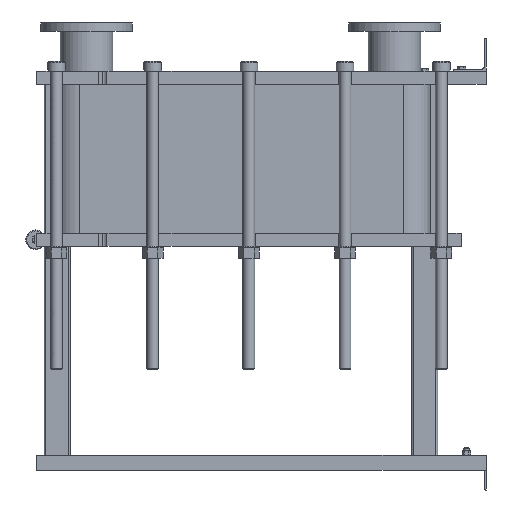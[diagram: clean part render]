
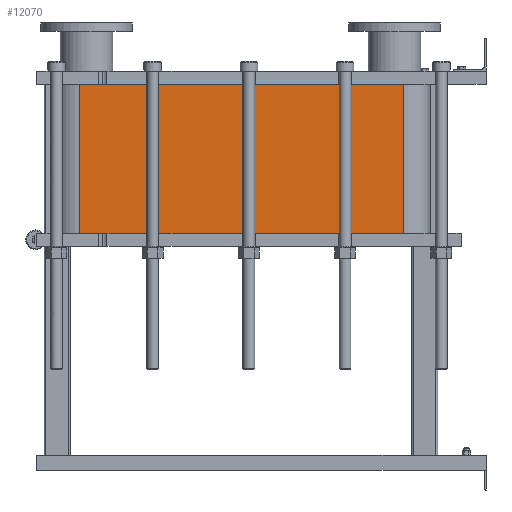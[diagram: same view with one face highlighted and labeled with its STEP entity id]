
A CAD part, left-side view. The second image highlights one B-rep face of the part: STEP entity #12070.
In plain terms, the highlighted planar face has unit normal (-1, 0, 0).
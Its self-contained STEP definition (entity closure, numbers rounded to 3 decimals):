
#1064=LINE('',#21140,#2164);
#1065=LINE('',#21144,#2165);
#1066=LINE('',#21146,#2166);
#1067=LINE('',#21147,#2167);
#2164=VECTOR('',#15790,10.);
#2165=VECTOR('',#15795,10.);
#2166=VECTOR('',#15796,10.);
#2167=VECTOR('',#15797,10.);
#3304=FACE_OUTER_BOUND('',#4091,.T.);
#4091=EDGE_LOOP('',(#9793,#9794,#9795,#9796));
#5677=VERTEX_POINT('',#21137);
#5678=VERTEX_POINT('',#21139);
#5679=VERTEX_POINT('',#21143);
#5680=VERTEX_POINT('',#21145);
#7118=EDGE_CURVE('',#5678,#5677,#1064,.T.);
#7120=EDGE_CURVE('',#5677,#5679,#1065,.T.);
#7121=EDGE_CURVE('',#5680,#5679,#1066,.T.);
#7122=EDGE_CURVE('',#5680,#5678,#1067,.T.);
#9793=ORIENTED_EDGE('',*,*,#7120,.T.);
#9794=ORIENTED_EDGE('',*,*,#7121,.F.);
#9795=ORIENTED_EDGE('',*,*,#7122,.T.);
#9796=ORIENTED_EDGE('',*,*,#7118,.T.);
#11441=PLANE('',#13191);
#12070=ADVANCED_FACE('',(#3304),#11441,.T.);
#13191=AXIS2_PLACEMENT_3D('',#21142,#15793,#15794);
#15790=DIRECTION('',(0.,0.,-1.));
#15793=DIRECTION('center_axis',(-1.,0.,0.));
#15794=DIRECTION('ref_axis',(0.,1.,0.));
#15795=DIRECTION('',(0.,-1.,0.));
#15796=DIRECTION('',(0.,0.,-1.));
#15797=DIRECTION('',(0.,1.,0.));
#21137=CARTESIAN_POINT('',(-248.152,1243.818,-455.4));
#21139=CARTESIAN_POINT('',(-248.152,1243.818,0.));
#21140=CARTESIAN_POINT('',(-248.152,1243.818,0.));
#21142=CARTESIAN_POINT('Origin',(-248.152,251.818,0.));
#21143=CARTESIAN_POINT('',(-248.152,251.818,-455.4));
#21144=CARTESIAN_POINT('',(-248.152,499.818,-455.4));
#21145=CARTESIAN_POINT('',(-248.152,251.818,0.));
#21146=CARTESIAN_POINT('',(-248.152,251.818,0.));
#21147=CARTESIAN_POINT('',(-248.152,251.818,0.));
